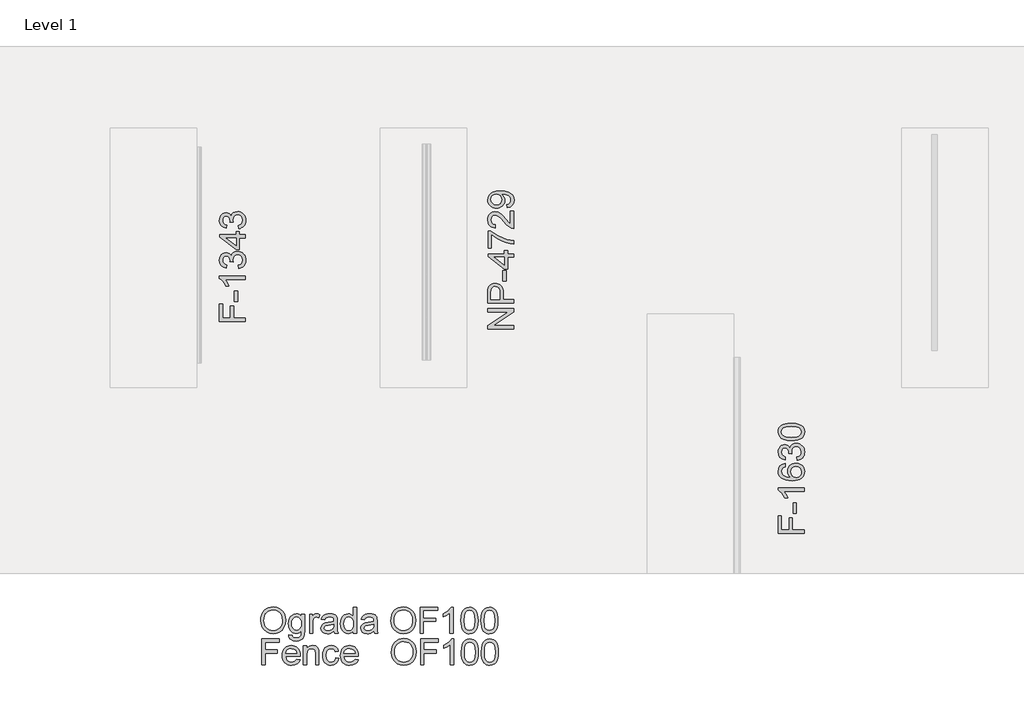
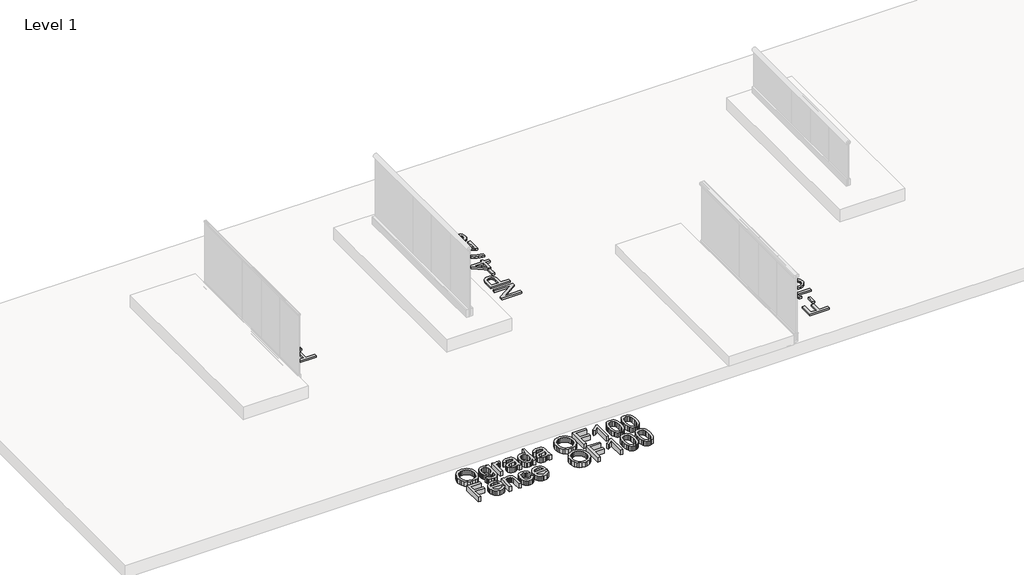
# One storey, part 8 of 9: 4 proxies.
"""IFC4 building model written with IfcOpenShell, lengths in millimetres."""

from ifc_helpers import new_model, si_unit, origin, origin_with_axes, place, context, project, spatial, polyline, outline, extrude, element, save

model = new_model("IFC4")

# Units and contexts
model_context = context("Model", 3, world=origin())
ifc_project = project(units=[si_unit("LENGTHUNIT", "METRE", prefix="MILLI")], contexts=[model_context])

# Site, building, storey
site = spatial("IfcSite", under=ifc_project)
building = spatial("IfcBuilding", under=site)
storey = spatial("IfcBuildingStorey", under=building, Name="Level 1", Elevation=0.0)

# Proxies
placement = place(None, origin())
element("IfcBuildingElementProxy", 1, Name="600mm Arial", ObjectType="600mm Arial", at=placement, inside=storey, context=model_context, shape_type="SweptSolid", body=[
    extrude(outline(polyline([(21006.9108458, -4168.9265323), (21009.4216404, -4133.5776711), (21016.9540243, -4102.2847089), (21029.5079974, -4075.0476456), (21047.0835597, -4051.8664814), (21068.627649, -4033.3574185), (21093.0872032, -4020.1366593), (21120.4622221, -4012.2042038), (21150.7527059, -4009.560052), (21190.2816263, -4014.5264589), (21225.7270565, -4029.4256797), (21255.1576161, -4053.2092507), (21276.6419247, -4084.8287082), (21289.7753119, -4122.7573419), (21294.1531076, -4165.4684415), (21289.5453856, -4208.7497583), (21275.7222197, -4247.2118209), (21253.4469649, -4278.8864606), (21223.4829764, -4301.8055089), (21188.3410488, -4315.7114484), (21150.5319767, -4320.3467615), (21110.396051, -4315.2240047), (21074.7482857, -4299.8557344), (21045.3913025, -4275.630705), (21024.1277232, -4243.9376711), (21011.2150651, -4207.4713683), (21006.9108458, -4168.9265323)]), holes=[polyline([(21044.5819621, -4169.2944143), (21046.4650581, -4194.2690032), (21052.114346, -4216.438492), (21061.5298258, -4235.8028805), (21074.7114975, -4252.3621688), (21090.7350577, -4265.6243147), (21108.6762027, -4275.0972761), (21128.5349327, -4280.7810529), (21150.3112475, -4282.6756452), (21172.4600429, -4280.7626588), (21192.5532976, -4275.0236997), (21210.5910117, -4265.4587678), (21226.5731851, -4252.0678632), (21239.6582878, -4235.159087), (21249.0047898, -4215.0405404), (21254.6126909, -4191.7122234), (21256.4819913, -4165.1741359), (21253.281418, -4131.8256331), (21243.6796979, -4103.0020787), (21227.9251515, -4079.4300399), (21206.266099, -4061.8360835), (21180.1372803, -4050.8823971), (21150.9734351, -4047.2311683), (21129.9535776, -4048.9901041), (21110.4512333, -4054.2669114), (21092.4664023, -4063.0615904), (21075.9990845, -4075.3741409), (21062.2540935, -4091.7977727), (21052.4362427, -4112.9256956), (21046.5455323, -4138.7579094), (21044.5819621, -4169.2944143)])]), origin_with_axes(), (0.0, 0.0, 1.0), 75.0),
    extrude(outline(polyline([(21331.8242239, -4334.4734301), (21369.4953403, -4339.1823196), (21373.6524068, -4350.9545435), (21381.7090225, -4359.0479474), (21397.5463424, -4365.3387295), (21418.2764928, -4367.4356569), (21440.3862007, -4365.062818), (21456.8305259, -4357.9443014), (21468.2348678, -4346.5399595), (21475.2246257, -4331.3096449), (21477.7997996, -4287.3845347), (21465.2642206, -4299.7453698), (21451.2755078, -4308.5745376), (21435.833661, -4313.8720384), (21418.9386804, -4315.637872), (21398.2844056, -4313.5823313), (21380.0995388, -4307.4157094), (21364.3840798, -4297.1380061), (21351.1380287, -4282.7492216), (21340.6280999, -4265.486359), (21333.121008, -4246.5864215), (21328.6167528, -4226.0494091), (21327.1153344, -4203.8753218), (21329.81007, -4173.4606779), (21337.8942769, -4145.4924492), (21351.0828464, -4121.7916516), (21369.0906701, -4104.1793011), (21391.3015455, -4093.2532059), (21417.0992704, -4089.6111741), (21434.7162195, -4091.6713133), (21450.7052907, -4097.8517308), (21465.0664841, -4108.1524267), (21477.7997996, -4122.5734009), (21477.7997996, -4094.3200637), (21515.4709159, -4094.3200637), (21515.4709159, -4285.397972), (21512.895742, -4329.5162202), (21505.1702201, -4358.5697008), (21491.8620889, -4377.8375203), (21472.5390871, -4392.5987853), (21447.624279, -4401.9797762), (21417.5407288, -4405.1067732), (21382.4907717, -4400.7013863), (21354.890425, -4387.4852256), (21344.4954594, -4377.5639081), (21337.186104, -4365.421503), (21332.9623589, -4351.0580103), (21331.8242239, -4334.4734301)]), holes=[polyline([(21364.7864507, -4201.3001479), (21368.8055615, -4235.8534643), (21380.8628939, -4259.6094441), (21398.9902792, -4273.3774278), (21421.2195488, -4277.9667556), (21443.2832714, -4273.4050189), (21461.5026272, -4259.7198087), (21473.7255065, -4236.2673315), (21477.7997996, -4202.4037938), (21473.6059449, -4169.7450697), (21461.0243807, -4146.2282132), (21442.5383104, -4132.0187711), (21420.6309376, -4127.2822904), (21399.1190379, -4131.9451947), (21381.0836231, -4145.9339076), (21368.8607438, -4169.1012762), (21364.7864507, -4201.3001479)])]), origin_with_axes(), (0.0, 0.0, 1.0), 75.0),
    extrude(outline(polyline([(21571.9775904, -4315.637872), (21571.9775904, -4094.3200637), (21604.9398172, -4094.3200637), (21604.9398172, -4127.0615612), (21617.1167112, -4108.0788503), (21628.3371121, -4096.8952376), (21639.5943011, -4091.43219), (21651.8815597, -4089.6111741), (21670.6435415, -4092.5174419), (21689.6998289, -4101.2362452), (21677.1182646, -4135.0078123), (21663.8745128, -4129.2136709), (21650.630761, -4127.2822904), (21639.382769, -4129.1400945), (21629.3303934, -4134.7135067), (21621.2093984, -4143.5794628), (21615.7555478, -4155.3148985), (21611.175417, -4176.3577486), (21609.6487067, -4199.3135851), (21609.6487067, -4315.637872), (21571.9775904, -4315.637872)])), origin_with_axes(), (0.0, 0.0, 1.0), 75.0),
    extrude(outline(polyline([(21854.5109627, -4287.3845347), (21836.5123361, -4302.8171844), (21817.9802806, -4312.9155452), (21798.4917319, -4318.4889574), (21777.6236257, -4320.3467615), (21746.142124, -4315.8769953), (21722.919573, -4302.4676965), (21708.5997664, -4282.1054281), (21703.8264975, -4256.7767527), (21705.6291192, -4241.160162), (21711.0369846, -4226.9783111), (21719.3787088, -4214.8382053), (21729.9829073, -4205.3468498), (21756.3600464, -4192.9860148), (21788.9543912, -4187.320632), (21827.471636, -4181.3609437), (21854.2902335, -4174.3711858), (21854.5109627, -4165.9834763), (21851.9173946, -4149.1712691), (21844.1366904, -4138.1715975), (21826.7358721, -4130.0046172), (21802.4924486, -4127.2822904), (21780.0516469, -4129.0941093), (21764.3798739, -4134.5295657), (21753.6929019, -4144.5819412), (21746.2065033, -4160.2445172), (21708.535387, -4155.5356277), (21715.0744895, -4134.9342359), (21724.8325594, -4118.7474281), (21738.7201047, -4106.368199), (21757.6476334, -4097.1895432), (21780.7966079, -4091.5057664), (21807.3484909, -4089.6111741), (21832.815122, -4091.2850372), (21853.0026465, -4096.3066264), (21868.2237641, -4103.8574044), (21878.7911744, -4113.1188336), (21885.7993264, -4124.5691607), (21890.342669, -4138.6866323), (21892.182079, -4171.648859), (21892.182079, -4218.5170252), (21894.0950654, -4283.9632322), (21901.5998581, -4315.637872), (21863.9287418, -4315.637872), (21854.5109627, -4287.3845347)]), holes=[polyline([(21854.5109627, -4212.0423021), (21793.7368571, -4223.5937968), (21761.3264533, -4229.7006379), (21746.6479617, -4239.6334518), (21741.4976138, -4254.1280024), (21744.302714, -4265.3300091), (21752.7180146, -4274.5086649), (21766.5595747, -4280.6339001), (21785.6434532, -4282.6756452), (21805.8769629, -4280.422368), (21823.7560279, -4273.6625363), (21838.2505785, -4263.7021313), (21848.3305452, -4251.847134), (21852.8003114, -4239.6334518), (21854.2902335, -4222.71088), (21854.5109627, -4212.0423021)])]), origin_with_axes(), (0.0, 0.0, 1.0), 75.0),
    extrude(outline(polyline([(22080.5376605, -4315.637872), (22080.5376605, -4280.1004712), (22069.2666759, -4297.7082232), (22055.6136554, -4310.2851889), (22039.5785989, -4317.8313684), (22021.1615065, -4320.3467615), (21996.8077184, -4316.7047297), (21974.5140695, -4305.7786345), (21955.6417232, -4288.3318309), (21941.5518428, -4265.127674), (21932.7778572, -4237.104263), (21929.8531953, -4205.199697), (21932.5479309, -4173.6906041), (21940.6321378, -4145.2349318), (21954.0966188, -4121.4513608), (21972.9321769, -4103.9585719), (21995.7132695, -4093.1980236), (22021.0143537, -4089.6111741), (22039.4452417, -4092.177151), (22055.7424141, -4099.8750818), (22069.556383, -4111.6748968), (22080.5376605, -4126.5465264), (22080.5376605, -4014.2689415), (22118.2087768, -4014.2689415), (22118.2087768, -4315.637872), (22080.5376605, -4315.637872)]), holes=[polyline([(21967.5243116, -4205.0525442), (21971.7733487, -4239.127614), (21984.5204598, -4263.3618404), (22003.0433182, -4277.847194), (22024.6195973, -4282.6756452), (22046.1866792, -4278.0679232), (22064.2404881, -4264.2447572), (22076.4633674, -4240.9486299), (22080.5376605, -4207.9220238), (22076.389791, -4171.8144059), (22063.9461825, -4146.7800362), (22045.4325211, -4132.1567269), (22023.0744929, -4127.2822904), (22001.2774847, -4131.9635888), (21983.4168138, -4146.007484), (21971.4974372, -4170.1313458), (21967.5243116, -4205.0525442)])]), origin_with_axes(), (0.0, 0.0, 1.0), 75.0),
    extrude(outline(polyline([(22315.9821374, -4287.3845347), (22297.9835108, -4302.8171844), (22279.4514553, -4312.9155452), (22259.9629066, -4318.4889574), (22239.0948004, -4320.3467615), (22207.6132987, -4315.8769953), (22184.3907478, -4302.4676965), (22170.0709411, -4282.1054281), (22165.2976722, -4256.7767527), (22167.100294, -4241.160162), (22172.5081593, -4226.9783111), (22180.8498836, -4214.8382053), (22191.4540821, -4205.3468498), (22217.8312211, -4192.9860148), (22250.4255659, -4187.320632), (22288.9428108, -4181.3609437), (22315.7614082, -4174.3711858), (22315.9821374, -4165.9834763), (22313.3885694, -4149.1712691), (22305.6078652, -4138.1715975), (22288.2070468, -4130.0046172), (22263.9636233, -4127.2822904), (22241.5228216, -4129.0941093), (22225.8510486, -4134.5295657), (22215.1640767, -4144.5819412), (22207.6776781, -4160.2445172), (22170.0065618, -4155.5356277), (22176.5456642, -4134.9342359), (22186.3037341, -4118.7474281), (22200.1912795, -4106.368199), (22219.1188081, -4097.1895432), (22242.2677827, -4091.5057664), (22268.8196657, -4089.6111741), (22294.2862968, -4091.2850372), (22314.4738213, -4096.3066264), (22329.6949388, -4103.8574044), (22340.2623491, -4113.1188336), (22347.2705011, -4124.5691607), (22351.8138438, -4138.6866323), (22353.6532537, -4171.648859), (22353.6532537, -4218.5170252), (22355.5662401, -4283.9632322), (22363.0710328, -4315.637872), (22325.3999165, -4315.637872), (22315.9821374, -4287.3845347)]), holes=[polyline([(22315.9821374, -4212.0423021), (22255.2080318, -4223.5937968), (22222.7976281, -4229.7006379), (22208.1191365, -4239.6334518), (22202.9687885, -4254.1280024), (22205.7738887, -4265.3300091), (22214.1891894, -4274.5086649), (22228.0307494, -4280.6339001), (22247.1146279, -4282.6756452), (22267.3481377, -4280.422368), (22285.2272026, -4273.6625363), (22299.7217533, -4263.7021313), (22309.8017199, -4251.847134), (22314.2714862, -4239.6334518), (22315.7614082, -4222.71088), (22315.9821374, -4212.0423021)])]), origin_with_axes(), (0.0, 0.0, 1.0), 75.0),
    extrude(outline(polyline([(22513.755498, -4168.9265323), (22516.2662927, -4133.5776711), (22523.7986765, -4102.2847089), (22536.3526496, -4075.0476456), (22553.9282119, -4051.8664814), (22575.4723013, -4033.3574185), (22599.9318554, -4020.1366593), (22627.3068744, -4012.2042038), (22657.5973582, -4009.560052), (22697.1262785, -4014.5264589), (22732.5717088, -4029.4256797), (22762.0022684, -4053.2092507), (22783.4865769, -4084.8287082), (22796.6199641, -4122.7573419), (22800.9977599, -4165.4684415), (22796.3900379, -4208.7497583), (22782.5668719, -4247.2118209), (22760.2916171, -4278.8864606), (22730.3276286, -4301.8055089), (22695.185701, -4315.7114484), (22657.376629, -4320.3467615), (22617.2407033, -4315.2240047), (22581.592938, -4299.8557344), (22552.2359547, -4275.630705), (22530.9723754, -4243.9376711), (22518.0597174, -4207.4713683), (22513.755498, -4168.9265323)]), holes=[polyline([(22551.4266144, -4169.2944143), (22553.3097103, -4194.2690032), (22558.9589982, -4216.438492), (22568.374478, -4235.8028805), (22581.5561498, -4252.3621688), (22597.5797099, -4265.6243147), (22615.520855, -4275.0972761), (22635.3795849, -4280.7810529), (22657.1558998, -4282.6756452), (22679.3046951, -4280.7626588), (22699.3979499, -4275.0236997), (22717.4356639, -4265.4587678), (22733.4178374, -4252.0678632), (22746.5029401, -4235.159087), (22755.849442, -4215.0405404), (22761.4573432, -4191.7122234), (22763.3266436, -4165.1741359), (22760.1260702, -4131.8256331), (22750.5243501, -4103.0020787), (22734.7698037, -4079.4300399), (22713.1107512, -4061.8360835), (22686.9819325, -4050.8823971), (22657.8180874, -4047.2311683), (22636.7982299, -4048.9901041), (22617.2958856, -4054.2669114), (22599.3110546, -4063.0615904), (22582.8437367, -4075.3741409), (22569.0987457, -4091.7977727), (22559.280895, -4112.9256956), (22553.3901845, -4138.7579094), (22551.4266144, -4169.2944143)])]), origin_with_axes(), (0.0, 0.0, 1.0), 75.0),
    extrude(outline(polyline([(22852.7955448, -4315.637872), (22852.7955448, -4014.2689415), (23055.2777949, -4014.2689415), (23055.2777949, -4051.9400578), (22890.4666611, -4051.9400578), (22890.4666611, -4141.408959), (23031.7333473, -4141.408959), (23031.7333473, -4179.0800753), (22890.4666611, -4179.0800753), (22890.4666611, -4315.637872), (22852.7955448, -4315.637872)])), origin_with_axes(), (0.0, 0.0, 1.0), 75.0),
    extrude(outline(polyline([(23234.2155974, -4315.637872), (23196.5444811, -4315.637872), (23196.5444811, -4080.7820062), (23160.8599276, -4106.2026521), (23121.2022485, -4125.2221513), (23121.2022485, -4089.6111741), (23150.7891579, -4073.5163368), (23176.421336, -4054.368079), (23196.6272545, -4034.0058105), (23209.9353857, -4014.2689415), (23234.2155974, -4014.2689415), (23234.2155974, -4315.637872)])), origin_with_axes(), (0.0, 0.0, 1.0), 75.0),
    extrude(outline(polyline([(23323.6844986, -4167.3814279), (23326.4528106, -4119.1429013), (23334.7577467, -4080.6716416), (23348.5165333, -4051.3790378), (23367.6463971, -4030.6764785), (23392.2852937, -4018.3708258), (23422.5711789, -4014.2689415), (23445.7845328, -4016.6969627), (23466.5698656, -4023.9810262), (23483.9522898, -4035.8360235), (23496.9569184, -4051.976846), (23506.7793676, -4072.265538), (23514.6152541, -4096.5641438), (23519.747208, -4127.4202462), (23521.4578592, -4167.3814279), (23518.7171384, -4215.344043), (23510.4949758, -4253.7233322), (23496.8189626, -4283.0435272), (23477.71669, -4303.8288599), (23453.0226111, -4316.2172861), (23422.5711789, -4320.3467615), (23401.8226344, -4318.5533368), (23383.4285346, -4313.1730626), (23367.3888797, -4304.205939), (23353.7036694, -4291.6519659), (23340.5702822, -4268.9582453), (23331.1892913, -4240.6819154), (23325.5606968, -4206.8229763), (23323.6844986, -4167.3814279)]), holes=[polyline([(23361.3556149, -4167.3078515), (23365.7701989, -4226.5644439), (23371.2884288, -4246.8324425), (23379.0139507, -4260.8602429), (23398.7324256, -4277.2217946), (23422.5711789, -4282.6756452), (23446.4099322, -4277.2034005), (23466.1284072, -4260.7866665), (23473.8539291, -4246.7358735), (23479.372159, -4226.4724734), (23483.7867429, -4167.3078515), (23479.5193118, -4109.3848314), (23474.1850229, -4089.1835113), (23466.7170184, -4074.8223179), (23447.0353316, -4057.6606228), (23422.1297205, -4051.9400578), (23398.5484846, -4056.9800411), (23379.6025619, -4072.0999911), (23371.6195226, -4087.7349759), (23365.9173517, -4108.8146143), (23361.3556149, -4167.3078515)])]), origin_with_axes(), (0.0, 0.0, 1.0), 75.0),
    extrude(outline(polyline([(23554.420086, -4167.3814279), (23557.188398, -4119.1429013), (23565.4933341, -4080.6716416), (23579.2521207, -4051.3790378), (23598.3819844, -4030.6764785), (23623.0208811, -4018.3708258), (23653.3067663, -4014.2689415), (23676.5201202, -4016.6969627), (23697.3054529, -4023.9810262), (23714.6878772, -4035.8360235), (23727.6925057, -4051.976846), (23737.514955, -4072.265538), (23745.3508415, -4096.5641438), (23750.4827953, -4127.4202462), (23752.1934466, -4167.3814279), (23749.4527257, -4215.344043), (23741.2305632, -4253.7233322), (23727.55455, -4283.0435272), (23708.4522774, -4303.8288599), (23683.7581985, -4316.2172861), (23653.3067663, -4320.3467615), (23632.5582218, -4318.5533368), (23614.164122, -4313.1730626), (23598.124467, -4304.205939), (23584.4392568, -4291.6519659), (23571.3058696, -4268.9582453), (23561.9248787, -4240.6819154), (23556.2962842, -4206.8229763), (23554.420086, -4167.3814279)]), holes=[polyline([(23592.0912023, -4167.3078515), (23596.5057863, -4226.5644439), (23602.0240162, -4246.8324425), (23609.7495381, -4260.8602429), (23629.468013, -4277.2217946), (23653.3067663, -4282.6756452), (23677.1455196, -4277.2034005), (23696.8639945, -4260.7866665), (23704.5895164, -4246.7358735), (23710.1077464, -4226.4724734), (23714.5223303, -4167.3078515), (23710.2548992, -4109.3848314), (23704.9206102, -4089.1835113), (23697.4526057, -4074.8223179), (23677.770919, -4057.6606228), (23652.8653079, -4051.9400578), (23629.284072, -4056.9800411), (23610.3381493, -4072.0999911), (23602.35511, -4087.7349759), (23596.6529391, -4108.8146143), (23592.0912023, -4167.3078515)])]), origin_with_axes(), (0.0, 0.0, 1.0), 75.0),
    extrude(outline(polyline([(21021.0375144, -4681.5623255), (21021.0375144, -4380.193395), (21223.5197646, -4380.193395), (21223.5197646, -4417.8645113), (21058.7086307, -4417.8645113), (21058.7086307, -4507.3334126), (21199.9753169, -4507.3334126), (21199.9753169, -4545.0045289), (21058.7086307, -4545.0045289), (21058.7086307, -4681.5623255), (21021.0375144, -4681.5623255)])), origin_with_axes(), (0.0, 0.0, 1.0), 75.0),
    extrude(outline(polyline([(21425.5605563, -4615.637872), (21462.4959086, -4620.3467615), (21449.1877775, -4648.1770344), (21427.9517893, -4668.9807613), (21399.2661907, -4681.9486016), (21363.6092283, -4686.271215), (21340.2349261, -4684.4065132), (21319.4082066, -4678.8124076), (21301.12907, -4669.4888983), (21285.3975162, -4656.4359852), (21272.746974, -4640.0169519), (21263.7108725, -4620.5950818), (21258.2892116, -4598.170375), (21256.4819913, -4572.7428313), (21258.3076057, -4546.4530642), (21263.7844489, -4523.2810971), (21272.9125209, -4503.2269298), (21285.6918217, -4486.2905625), (21301.3819888, -4472.8352785), (21319.2426597, -4463.2243614), (21339.2738343, -4457.4578111), (21361.4755128, -4455.5356277), (21382.9621205, -4457.4532126), (21402.3931877, -4463.2059673), (21419.7687142, -4472.7938918), (21435.0887, -4486.2169861), (21447.5943886, -4503.1165652), (21456.5270233, -4523.1339443), (21461.8866041, -4546.2691232), (21463.673131, -4572.5221021), (21463.4524018, -4582.6756452), (21294.1531076, -4582.6756452), (21300.673816, -4610.8738001), (21315.8213572, -4631.6039505), (21337.6827447, -4644.3510617), (21364.3449923, -4648.6000987), (21384.3945611, -4646.63193), (21401.2803446, -4640.727424), (21415.0023431, -4630.5186987), (21425.5605563, -4615.637872)]), holes=[polyline([(21294.1531076, -4545.0045289), (21426.0020147, -4545.0045289), (21420.9068491, -4525.1021129), (21410.9188529, -4510.8650797), (21388.9562978, -4497.6213279), (21361.32836, -4493.206744), (21335.9353052, -4496.7292141), (21314.9384404, -4507.2966244), (21300.3427222, -4523.7685407), (21294.1531076, -4545.0045289)])]), origin_with_axes(), (0.0, 0.0, 1.0), 75.0),
    extrude(outline(polyline([(21501.3442473, -4681.5623255), (21501.3442473, -4460.2445172), (21539.0153636, -4460.2445172), (21539.0153636, -4491.1466048), (21552.1027656, -4475.5668023), (21567.8205239, -4464.4383719), (21586.1686384, -4457.7613137), (21607.1471091, -4455.5356277), (21625.7159528, -4457.3290524), (21642.7212981, -4462.7093266), (21656.903149, -4471.0050656), (21667.0015098, -4481.5448847), (21678.295487, -4509.2463989), (21680.2820498, -4545.6667165), (21680.2820498, -4681.5623255), (21642.6109335, -4681.5623255), (21642.6109335, -4550.743488), (21638.2699259, -4517.4133792), (21632.2642524, -4507.4897624), (21622.9292467, -4499.7918317), (21610.9638848, -4494.8530159), (21597.0671425, -4493.206744), (21575.0034198, -4496.903958), (21556.1954528, -4507.9956002), (21548.6791638, -4517.0500958), (21543.3103859, -4529.4247264), (21539.0153636, -4564.1343926), (21539.0153636, -4681.5623255), (21501.3442473, -4681.5623255)])), origin_with_axes(), (0.0, 0.0, 1.0), 75.0),
    extrude(outline(polyline([(21873.3465208, -4601.5112033), (21911.0176372, -4606.2200929), (21900.5146062, -4639.7249456), (21880.7777371, -4665.0444239), (21853.6648341, -4680.9645172), (21821.0337011, -4686.271215), (21799.9057783, -4684.4203087), (21780.9621548, -4678.8675899), (21764.2028307, -4669.6130584), (21749.6278059, -4656.6567144), (21737.8302901, -4640.2422796), (21729.4034932, -4620.6134759), (21724.347415, -4597.7703033), (21722.6620556, -4571.7127617), (21725.5407322, -4538.1895149), (21734.1767621, -4509.1360344), (21748.7081009, -4485.6743601), (21769.2727044, -4468.9265323), (21793.8748128, -4458.8833538), (21820.5186663, -4455.5356277), (21852.349656, -4460.1341526), (21877.797893, -4473.9297274), (21896.054037, -4496.1865881), (21906.3087476, -4526.1689707), (21868.6376313, -4530.8778603), (21861.8042232, -4514.4427321), (21851.1632365, -4502.6613112), (21837.3032824, -4495.5703858), (21820.8129719, -4493.206744), (21796.4683809, -4497.8604512), (21777.1453791, -4511.8215729), (21764.5362237, -4535.8442672), (21760.3331719, -4570.6826921), (21764.4442532, -4605.9901666), (21776.7774971, -4630.0956344), (21795.751011, -4643.9739826), (21819.7829023, -4648.6000987), (21839.2898451, -4645.7122251), (21855.2835149, -4637.0486041), (21866.917783, -4622.3885066), (21873.3465208, -4601.5112033)])), origin_with_axes(), (0.0, 0.0, 1.0), 75.0),
    extrude(outline(polyline([(22098.9317603, -4615.637872), (22135.8671126, -4620.3467615), (22122.5589814, -4648.1770344), (22101.3229933, -4668.9807613), (22072.6373947, -4681.9486016), (22036.9804323, -4686.271215), (22013.60613, -4684.4065132), (21992.7794106, -4678.8124076), (21974.5002739, -4669.4888983), (21958.7687201, -4656.4359852), (21946.118178, -4640.0169519), (21937.0820765, -4620.5950818), (21931.6604156, -4598.170375), (21929.8531953, -4572.7428313), (21931.6788097, -4546.4530642), (21937.1556529, -4523.2810971), (21946.2837249, -4503.2269298), (21959.0630257, -4486.2905625), (21974.7531928, -4472.8352785), (21992.6138637, -4463.2243614), (22012.6450383, -4457.4578111), (22034.8467167, -4455.5356277), (22056.3333245, -4457.4532126), (22075.7643916, -4463.2059673), (22093.1399181, -4472.7938918), (22108.459904, -4486.2169861), (22120.9655925, -4503.1165652), (22129.8982272, -4523.1339443), (22135.257808, -4546.2691232), (22137.044335, -4572.5221021), (22136.8236058, -4582.6756452), (21967.5243116, -4582.6756452), (21974.04502, -4610.8738001), (21989.1925611, -4631.6039505), (22011.0539487, -4644.3510617), (22037.7161963, -4648.6000987), (22057.765765, -4646.63193), (22074.6515486, -4640.727424), (22088.373547, -4630.5186987), (22098.9317603, -4615.637872)]), holes=[polyline([(21967.5243116, -4545.0045289), (22099.3732187, -4545.0045289), (22094.278053, -4525.1021129), (22084.2900569, -4510.8650797), (22062.3275018, -4497.6213279), (22034.6995639, -4493.206744), (22009.3065092, -4496.7292141), (21988.3096443, -4507.2966244), (21973.7139262, -4523.7685407), (21967.5243116, -4545.0045289)])]), origin_with_axes(), (0.0, 0.0, 1.0), 75.0),
    extrude(outline(polyline([(22518.4643876, -4534.8509858), (22520.9751822, -4499.5021246), (22528.5075661, -4468.2091624), (22541.0615391, -4440.9720992), (22558.6371015, -4417.7909349), (22580.1811908, -4399.2818721), (22604.640745, -4386.0611129), (22632.0157639, -4378.1286573), (22662.3062477, -4375.4845055), (22701.8351681, -4380.4509124), (22737.2805983, -4395.3501332), (22766.7111579, -4419.1337042), (22788.1954665, -4450.7531617), (22801.3288537, -4488.6817954), (22805.7066494, -4531.3928951), (22801.0989274, -4574.6742118), (22787.2757615, -4613.1362744), (22765.0005067, -4644.8109142), (22735.0365181, -4667.7299625), (22699.8945906, -4681.6359019), (22662.0855185, -4686.271215), (22621.9495928, -4681.1484582), (22586.3018275, -4665.7801879), (22556.9448443, -4641.5551585), (22535.681265, -4609.8621246), (22522.7686069, -4573.3958219), (22518.4643876, -4534.8509858)]), holes=[polyline([(22556.1355039, -4535.2188678), (22558.0185999, -4560.1934568), (22563.6678877, -4582.3629455), (22573.0833676, -4601.727334), (22586.2650393, -4618.2866223), (22602.2885995, -4631.5487682), (22620.2297445, -4641.0217296), (22640.0884745, -4646.7055064), (22661.8647893, -4648.6000987), (22684.0135847, -4646.6871123), (22704.1068394, -4640.9481532), (22722.1445535, -4631.3832213), (22738.1267269, -4617.9923167), (22751.2118296, -4601.0835405), (22760.5583316, -4580.9649939), (22766.1662327, -4557.6366769), (22768.0355331, -4531.0985895), (22764.8349598, -4497.7500866), (22755.2332397, -4468.9265323), (22739.4786932, -4445.3544934), (22717.8196408, -4427.760537), (22691.6908221, -4416.8068506), (22662.5269769, -4413.1556218), (22641.5071194, -4414.9145576), (22622.0047751, -4420.191365), (22604.0199441, -4428.9860439), (22587.5526263, -4441.2985944), (22573.8076352, -4457.7222263), (22563.9897845, -4478.8501491), (22558.099074, -4504.6823629), (22556.1355039, -4535.2188678)])]), origin_with_axes(), (0.0, 0.0, 1.0), 75.0),
    extrude(outline(polyline([(22857.5044343, -4681.5623255), (22857.5044343, -4380.193395), (23059.9866845, -4380.193395), (23059.9866845, -4417.8645113), (22895.1755506, -4417.8645113), (22895.1755506, -4507.3334126), (23036.4422368, -4507.3334126), (23036.4422368, -4545.0045289), (22895.1755506, -4545.0045289), (22895.1755506, -4681.5623255), (22857.5044343, -4681.5623255)])), origin_with_axes(), (0.0, 0.0, 1.0), 75.0),
    extrude(outline(polyline([(23238.9244869, -4681.5623255), (23201.2533706, -4681.5623255), (23201.2533706, -4446.7064598), (23165.5688171, -4472.1271056), (23125.911138, -4491.1466048), (23125.911138, -4455.5356277), (23155.4980475, -4439.4407904), (23181.1302255, -4420.2925325), (23201.3361441, -4399.9302641), (23214.6442753, -4380.193395), (23238.9244869, -4380.193395), (23238.9244869, -4681.5623255)])), origin_with_axes(), (0.0, 0.0, 1.0), 75.0),
    extrude(outline(polyline([(23328.3933882, -4533.3058814), (23331.1617002, -4485.0673548), (23339.4666362, -4446.5960952), (23353.2254228, -4417.3034913), (23372.3552866, -4396.600932), (23396.9941832, -4384.2952793), (23427.2800685, -4380.193395), (23450.4934224, -4382.6214162), (23471.2787551, -4389.9054797), (23488.6611794, -4401.760477), (23501.6658079, -4417.9012995), (23511.4882572, -4438.1899916), (23519.3241437, -4462.4885974), (23524.4560975, -4493.3446997), (23526.1667488, -4533.3058814), (23523.4260279, -4581.2684966), (23515.2038653, -4619.6477857), (23501.5278521, -4648.9679807), (23482.4255795, -4669.7533134), (23457.7315006, -4682.1417396), (23427.2800685, -4686.271215), (23406.5315239, -4684.4777903), (23388.1374242, -4679.0975161), (23372.0977692, -4670.1303925), (23358.412559, -4657.5764194), (23345.2791717, -4634.8826988), (23335.8981809, -4606.606369), (23330.2695863, -4572.7474298), (23328.3933882, -4533.3058814)]), holes=[polyline([(23366.0645045, -4533.232305), (23370.4790884, -4592.4888974), (23375.9973183, -4612.7568961), (23383.7228402, -4626.7846964), (23403.4413152, -4643.1462481), (23427.2800685, -4648.6000987), (23451.1188218, -4643.127854), (23470.8372967, -4626.71112), (23478.5628186, -4612.6603271), (23484.0810485, -4592.3969269), (23488.4956325, -4533.232305), (23484.2282013, -4475.3092849), (23478.8939124, -4455.1079648), (23471.4259079, -4440.7467714), (23451.7442212, -4423.5850764), (23426.8386101, -4417.8645113), (23403.2573742, -4422.9044947), (23384.3114514, -4438.0244447), (23376.3284121, -4453.6594295), (23370.6262412, -4474.7390678), (23366.0645045, -4533.232305)])]), origin_with_axes(), (0.0, 0.0, 1.0), 75.0),
    extrude(outline(polyline([(23559.1289755, -4533.3058814), (23561.8972876, -4485.0673548), (23570.2022236, -4446.5960952), (23583.9610102, -4417.3034913), (23603.090874, -4396.600932), (23627.7297706, -4384.2952793), (23658.0156558, -4380.193395), (23681.2290097, -4382.6214162), (23702.0143425, -4389.9054797), (23719.3967667, -4401.760477), (23732.4013953, -4417.9012995), (23742.2238445, -4438.1899916), (23750.059731, -4462.4885974), (23755.1916849, -4493.3446997), (23756.9023361, -4533.3058814), (23754.1616153, -4581.2684966), (23745.9394527, -4619.6477857), (23732.2634395, -4648.9679807), (23713.1611669, -4669.7533134), (23688.467088, -4682.1417396), (23658.0156558, -4686.271215), (23637.2671113, -4684.4777903), (23618.8730116, -4679.0975161), (23602.8333566, -4670.1303925), (23589.1481463, -4657.5764194), (23576.0147591, -4634.8826988), (23566.6337682, -4606.606369), (23561.0051737, -4572.7474298), (23559.1289755, -4533.3058814)]), holes=[polyline([(23596.8000918, -4533.232305), (23601.2146758, -4592.4888974), (23606.7329057, -4612.7568961), (23614.4584276, -4626.7846964), (23634.1769026, -4643.1462481), (23658.0156558, -4648.6000987), (23681.8544091, -4643.127854), (23701.5728841, -4626.71112), (23709.298406, -4612.6603271), (23714.8166359, -4592.3969269), (23719.2312198, -4533.232305), (23714.9637887, -4475.3092849), (23709.6294998, -4455.1079648), (23702.1614953, -4440.7467714), (23682.4798085, -4423.5850764), (23657.5741975, -4417.8645113), (23633.9929616, -4422.9044947), (23615.0470388, -4438.0244447), (23607.0639995, -4453.6594295), (23601.3618286, -4474.7390678), (23596.8000918, -4533.232305)])]), origin_with_axes(), (0.0, 0.0, 1.0), 75.0),
])
element("IfcBuildingElementProxy", 2, Name="600mm Arial", ObjectType="600mm Arial", at=placement, inside=storey, context=model_context, shape_type="SweptSolid", body=[
    extrude(outline(polyline([(20830.3085019, -703.3093416), (20528.9395714, -703.3093416), (20528.9395714, -500.8270915), (20566.6106877, -500.8270915), (20566.6106877, -665.6382253), (20656.079589, -665.6382253), (20656.079589, -524.3715392), (20693.7507053, -524.3715392), (20693.7507053, -665.6382253), (20830.3085019, -665.6382253), (20830.3085019, -703.3093416)])), origin_with_axes(), (0.0, 0.0, 1.0), 30.0),
    extrude(outline(polyline([(20740.8396007, -472.5737543), (20703.1684843, -472.5737543), (20703.1684843, -354.8515158), (20740.8396007, -354.8515158), (20740.8396007, -472.5737543)])), origin_with_axes(), (0.0, 0.0, 1.0), 30.0),
    extrude(outline(polyline([(20830.3085019, -180.6226029), (20830.3085019, -218.2937192), (20595.4526362, -218.2937192), (20620.873282, -253.9782727), (20639.8927812, -293.6359518), (20604.281804, -293.6359518), (20588.1869668, -264.0490423), (20569.0387089, -238.4168643), (20548.6764405, -218.2109458), (20528.9395714, -204.9028146), (20528.9395714, -180.6226029), (20830.3085019, -180.6226029)])), origin_with_axes(), (0.0, 0.0, 1.0), 30.0),
    extrude(outline(polyline([(20750.2573797, -91.1537017), (20745.5484902, -53.4825854), (20769.2216966, -45.0488906), (20785.2061693, -32.6972526), (20794.3112487, -15.8206661), (20797.3462751, 6.1878743), (20793.1708145, 32.0131903), (20780.6444325, 51.9523945), (20761.9560272, 64.6995056), (20739.2944963, 68.9485426), (20717.7825966, 64.7362938), (20700.335793, 52.0995473), (20688.7751013, 32.9696835), (20684.9215374, 9.278083), (20689.0418157, -17.1358442), (20651.3706994, -12.9419895), (20651.8121578, -6.9087248), (20649.1082252, 15.6608356), (20640.9964272, 35.8391631), (20627.2744287, 50.0761963), (20607.7398948, 54.821874), (20591.4703136, 51.3821774), (20578.272547, 41.0630874), (20569.5261526, 25.317738), (20566.6106877, 5.5992631), (20569.5537437, -14.1560001), (20578.3829116, -30.3060197), (20593.0981914, -42.0966376), (20613.6995831, -48.7736958), (20608.9906936, -86.4448121), (20575.1639441, -75.35317), (20549.9088452, -55.6163009), (20534.1818899, -28.6137625), (20528.9395714, 4.2748879), (20531.5239424, 27.9572913), (20539.2770555, 49.7083143), (20551.5091318, 68.0472317), (20567.5303927, 81.4933187), (20585.9888718, 89.7430724), (20605.5326028, 92.4929903), (20623.7427616, 89.8810282), (20640.2606632, 82.0451417), (20654.3321495, 69.0956954), (20665.2030624, 51.1430541), (20674.7312061, 74.72429), (20690.9548021, 92.1986847), (20712.9909336, 103.0144154), (20739.9566839, 106.6196589), (20759.0681535, 104.8170372), (20776.671307, 99.4091718), (20792.7661443, 90.396063), (20807.3526654, 77.7777105), (20819.455983, 62.4048416), (20828.1012099, 45.1281834), (20833.288346, 25.9477359), (20835.0173914, 4.8634991), (20833.5412649, -14.1927883), (20829.1128854, -31.5568184), (20821.7322529, -47.2285914), (20811.3993673, -61.2081073), (20798.7212341, -72.9297473), (20784.3048584, -81.8278931), (20768.1502403, -87.9025445), (20750.2573797, -91.1537017)])), origin_with_axes(), (0.0, 0.0, 1.0), 30.0),
    extrude(outline(polyline([(20830.3085019, 262.0130137), (20759.6751588, 262.0130137), (20759.6751588, 125.4552171), (20722.0040425, 125.4552171), (20533.648461, 271.4307928), (20533.648461, 299.68413), (20722.0040425, 299.68413), (20722.0040425, 337.3552463), (20759.6751588, 337.3552463), (20759.6751588, 299.68413), (20830.3085019, 299.68413), (20830.3085019, 262.0130137)]), holes=[polyline([(20722.0040425, 262.0130137), (20605.6061792, 262.0130137), (20722.0040425, 171.8083485), (20722.0040425, 262.0130137)])]), origin_with_axes(), (0.0, 0.0, 1.0), 30.0),
    extrude(outline(polyline([(20750.2573797, 370.3174731), (20745.5484902, 407.9885894), (20769.2216966, 416.4222841), (20785.2061693, 428.7739221), (20794.3112487, 445.6505086), (20797.3462751, 467.659049), (20793.1708145, 493.4843651), (20780.6444325, 513.4235692), (20761.9560272, 526.1706803), (20739.2944963, 530.4197174), (20717.7825966, 526.2074685), (20700.335793, 513.570722), (20688.7751013, 494.4408583), (20684.9215374, 470.7492578), (20689.0418157, 444.3353305), (20651.3706994, 448.5291853), (20651.8121578, 454.56245), (20649.1082252, 477.1320104), (20640.9964272, 497.3103378), (20627.2744287, 511.547371), (20607.7398948, 516.2930488), (20591.4703136, 512.8533521), (20578.272547, 502.5342622), (20569.5261526, 486.7889128), (20566.6106877, 467.0704378), (20569.5537437, 447.3151747), (20578.3829116, 431.1651551), (20593.0981914, 419.3745371), (20613.6995831, 412.6974789), (20608.9906936, 375.0263626), (20575.1639441, 386.1180048), (20549.9088452, 405.8548738), (20534.1818899, 432.8574123), (20528.9395714, 465.7460626), (20531.5239424, 489.4284661), (20539.2770555, 511.179489), (20551.5091318, 529.5184065), (20567.5303927, 542.9644934), (20585.9888718, 551.2142472), (20605.5326028, 553.9641651), (20623.7427616, 551.3522029), (20640.2606632, 543.5163164), (20654.3321495, 530.5668702), (20665.2030624, 512.6142288), (20674.7312061, 536.1954647), (20690.9548021, 553.6698595), (20712.9909336, 564.4855901), (20739.9566839, 568.0908337), (20759.0681535, 566.2882119), (20776.671307, 560.8803466), (20792.7661443, 551.8672377), (20807.3526654, 539.2488853), (20819.455983, 523.8760164), (20828.1012099, 506.5993582), (20833.288346, 487.4189107), (20835.0173914, 466.3346738), (20833.5412649, 447.2783865), (20829.1128854, 429.9143563), (20821.7322529, 414.2425833), (20811.3993673, 400.2630675), (20798.7212341, 388.5414274), (20784.3048584, 379.6432817), (20768.1502403, 373.5686302), (20750.2573797, 370.3174731)])), origin_with_axes(), (0.0, 0.0, 1.0), 30.0),
])
element("IfcBuildingElementProxy", 3, Name="600mm Arial", ObjectType="600mm Arial", at=placement, inside=storey, context=model_context, shape_type="SweptSolid", body=[
    extrude(outline(polyline([(23934.8045244, -790.2432235), (23633.435594, -790.2432235), (23633.435594, -749.9233569), (23872.1910088, -592.4698629), (23633.435594, -592.4698629), (23633.435594, -554.7987466), (23934.8045244, -554.7987466), (23934.8045244, -595.1186133), (23695.9755331, -752.5721072), (23934.8045244, -752.5721072), (23934.8045244, -790.2432235)])), origin_with_axes(), (0.0, 0.0, 1.0), 30.0),
    extrude(outline(polyline([(23934.8045244, -488.8742931), (23633.435594, -488.8742931), (23633.435594, -377.1853193), (23636.3050735, -332.1565631), (23641.6669536, -312.0794032), (23650.3949539, -295.5523046), (23662.8845477, -282.2441734), (23679.531208, -271.8239159), (23699.1669094, -265.0916754), (23720.6236268, -262.8475952), (23739.1234926, -264.3628092), (23756.1426334, -268.9084511), (23771.6810492, -276.484521), (23785.73874, -287.0910187), (23797.3914022, -301.6522479), (23805.7147323, -321.0925121), (23810.7087304, -345.4118113), (23812.3733964, -374.6101454), (23812.3733964, -451.2031768), (23934.8045244, -451.2031768), (23934.8045244, -488.8742931)]), holes=[polyline([(23774.7022801, -451.2031768), (23774.7022801, -372.4028534), (23771.2441894, -338.9991682), (23760.8699171, -316.9262485), (23744.2232568, -304.6205958), (23721.948002, -300.5187115), (23705.0254302, -302.9375357), (23690.7516088, -310.194008), (23680.0094545, -321.3868177), (23673.6818842, -335.6146539), (23671.1067103, -373.2857702), (23671.1067103, -451.2031768), (23774.7022801, -451.2031768)])]), origin_with_axes(), (0.0, 0.0, 1.0), 30.0),
    extrude(outline(polyline([(23845.3356232, -234.594258), (23807.6645069, -234.594258), (23807.6645069, -116.8720196), (23845.3356232, -116.8720196), (23845.3356232, -234.594258)])), origin_with_axes(), (0.0, 0.0, 1.0), 30.0),
    extrude(outline(polyline([(23934.8045244, 38.5213352), (23864.1711813, 38.5213352), (23864.1711813, -98.0364614), (23826.500065, -98.0364614), (23638.1444835, 47.9391143), (23638.1444835, 76.1924515), (23826.500065, 76.1924515), (23826.500065, 113.8635678), (23864.1711813, 113.8635678), (23864.1711813, 76.1924515), (23934.8045244, 76.1924515), (23934.8045244, 38.5213352)]), holes=[polyline([(23826.500065, 38.5213352), (23710.1022018, 38.5213352), (23826.500065, -51.68333), (23826.500065, 38.5213352)])]), origin_with_axes(), (0.0, 0.0, 1.0), 30.0),
    extrude(outline(polyline([(23675.8155998, 146.8257946), (23638.1444835, 146.8257946), (23638.1444835, 344.5991552), (23668.6051127, 344.5991552), (23704.2804692, 316.4101973), (23749.6495162, 288.4971509), (23800.5735814, 263.8766484), (23852.9139923, 245.5653221), (23892.0750307, 236.5890014), (23934.8045244, 231.5858063), (23934.8045244, 193.91469), (23895.9745798, 197.9889831), (23849.8237835, 208.8874872), (23800.9046752, 226.3158967), (23753.7697946, 249.979906), (23711.1598625, 277.6078439), (23675.8155998, 306.9280389), (23675.8155998, 146.8257946)])), origin_with_axes(), (0.0, 0.0, 1.0), 30.0),
    extrude(outline(polyline([(23897.1334081, 570.625853), (23934.8045244, 570.625853), (23934.8045244, 372.8524924), (23908.8320555, 376.8991944), (23888.5341665, 386.1882147), (23868.8432827, 399.7814545), (23848.2326939, 419.4447471), (23825.1756898, 446.9439263), (23789.068072, 487.5948867), (23762.4150215, 511.985463), (23740.7835602, 524.1807511), (23719.74071, 528.2458472), (23700.8775607, 524.4106774), (23685.1965907, 512.905168), (23674.6291804, 495.2192411), (23671.1067103, 472.8428187), (23674.5464069, 449.3443563), (23684.8654969, 431.0882123), (23701.2546398, 419.3067914), (23722.9044952, 415.2324983), (23718.1956056, 377.561382), (23681.756894, 386.6940525), (23667.2209567, 395.2404111), (23655.1406317, 406.4401186), (23645.6446777, 420.0356576), (23638.8618534, 435.7695106), (23633.435594, 473.6521591), (23634.9439101, 493.8419828), (23639.4688587, 511.8107191), (23647.0104396, 527.5583677), (23657.5686528, 541.0849288), (23670.3617492, 551.948944), (23684.6079795, 559.7089548), (23700.3073436, 564.3649613), (23717.4598417, 565.9169635), (23735.4768624, 564.2431004), (23753.1811834, 559.2215112), (23771.1890071, 550.3095698), (23790.1165357, 536.9646505), (23812.7136873, 515.6918741), (23841.7303796, 482.9963618), (23877.9667562, 439.6598627), (23897.1334081, 422.6637146), (23897.1334081, 570.625853)])), origin_with_axes(), (0.0, 0.0, 1.0), 30.0),
    extrude(outline(polyline([(23859.4622918, 613.0058589), (23854.7534023, 650.6769752), (23876.1365432, 657.1149101), (23890.6954732, 667.599547), (23899.0555915, 681.8733684), (23901.8422976, 699.6788569), (23900.0488729, 715.6541326), (23894.6685987, 730.1762743), (23886.2900863, 742.2428038), (23875.5019468, 750.8512425), (23842.7604492, 763.1752893), (23799.0560682, 768.6199428), (23791.6984283, 768.3992136), (23807.6277187, 755.3485999), (23820.2460711, 738.2696782), (23828.4682337, 718.3948534), (23831.2089546, 696.9565302), (23829.5350915, 679.0613704), (23824.5135023, 662.6055489), (23816.1441869, 647.5890657), (23804.4271453, 634.0119208), (23789.9739814, 622.7616295), (23773.396299, 614.7257072), (23754.6940981, 609.9041538), (23733.8673786, 608.2969693), (23712.3462819, 609.9823287), (23693.0324772, 615.0384069), (23675.9259644, 623.4652039), (23661.0267436, 635.2627196), (23648.9556156, 649.5986211), (23640.3333814, 665.6405753), (23635.1600408, 683.3885823), (23633.435594, 702.8426421), (23637.3719313, 730.9396295), (23649.1809434, 756.5166252), (23668.2740189, 777.9089632), (23694.0625468, 793.4519775), (23729.7103121, 802.9157418), (23778.3811001, 806.0703299), (23829.9857469, 802.9249389), (23869.8733523, 793.4887657), (23899.8465378, 777.8445839), (23921.7079254, 756.0751668), (23935.0620418, 729.1186136), (23939.5134139, 697.9130234), (23934.2618985, 665.7049547), (23918.507352, 640.0083973), (23893.243056, 622.0373619), (23859.4622918, 613.0058589)]), holes=[polyline([(23732.9844619, 768.3992136), (23707.4534514, 764.3341176), (23687.8085528, 752.1388295), (23675.2821709, 733.2113008), (23671.1067103, 708.9494832), (23675.6040677, 683.7863547), (23689.0961398, 663.6264214), (23709.7435168, 650.3826696), (23735.7067886, 645.9680856), (23758.9845219, 650.1435463), (23777.4613951, 662.6699282), (23789.5187275, 682.3332209), (23793.5378383, 707.9194136), (23789.5187275, 731.9880932), (23777.4613951, 751.3662773), (23758.3039402, 764.1409795), (23732.9844619, 768.3992136)])]), origin_with_axes(), (0.0, 0.0, 1.0), 30.0),
])
element("IfcBuildingElementProxy", 4, Name="600mm Arial", ObjectType="600mm Arial", at=placement, inside=storey, context=model_context, shape_type="SweptSolid", body=[
    extrude(outline(polyline([(27295.6940598, -3155.9949358), (26994.3251293, -3155.9949358), (26994.3251293, -2953.5126857), (27031.9962457, -2953.5126857), (27031.9962457, -3118.3238195), (27121.4651469, -3118.3238195), (27121.4651469, -2977.0571334), (27159.1362632, -2977.0571334), (27159.1362632, -3118.3238195), (27295.6940598, -3118.3238195), (27295.6940598, -3155.9949358)])), origin_with_axes(), (0.0, 0.0, 1.0), 30.0),
    extrude(outline(polyline([(27206.2251586, -2925.2593485), (27168.5540423, -2925.2593485), (27168.5540423, -2807.53711), (27206.2251586, -2807.53711), (27206.2251586, -2925.2593485)])), origin_with_axes(), (0.0, 0.0, 1.0), 30.0),
    extrude(outline(polyline([(27295.6940598, -2633.3081971), (27295.6940598, -2670.9793134), (27060.8381941, -2670.9793134), (27086.2588399, -2706.6638669), (27105.2783391, -2746.321546), (27069.667362, -2746.321546), (27053.5725247, -2716.7346366), (27034.4242668, -2691.1024585), (27014.0619984, -2670.89654), (26994.3251293, -2657.5884088), (26994.3251293, -2633.3081971), (27295.6940598, -2633.3081971)])), origin_with_axes(), (0.0, 0.0, 1.0), 30.0),
    extrude(outline(polyline([(27074.3762515, -2350.7748248), (27079.085141, -2388.4459411), (27060.4151298, -2394.515994), (27047.6680186, -2402.7197625), (27035.9141889, -2419.8078812), (27031.9962457, -2440.4644552), (27034.277114, -2457.9756382), (27041.1197191, -2474.4567516), (27055.5314963, -2488.6110113), (27075.3695329, -2500.171703), (27103.4297321, -2507.9799984), (27142.507997, -2510.8770691), (27124.8772524, -2495.7663161), (27112.452038, -2477.6573249), (27105.085201, -2457.5617709), (27102.6295887, -2436.4913297), (27104.3080503, -2418.3915355), (27109.3434351, -2401.6896929), (27117.7357432, -2386.3858019), (27129.4849744, -2372.4798625), (27143.892153, -2360.9237693), (27160.2583033, -2352.6694171), (27178.5834252, -2347.7168057), (27198.8675187, -2346.0659353), (27225.842466, -2349.1745381), (27250.8492446, -2358.5003467), (27272.0576416, -2373.2708088), (27287.6374441, -2392.7133722), (27297.211573, -2415.9451202), (27300.4029493, -2442.083136), (27298.2876279, -2464.5400325), (27291.9416634, -2484.8218268), (27281.3650561, -2502.9285187), (27266.5578058, -2518.8601084), (27246.8945131, -2531.8486421), (27221.7497788, -2541.1261662), (27191.1236027, -2546.6926806), (27155.0159848, -2548.5481854), (27114.5351698, -2546.4880462), (27079.9864519, -2540.3076287), (27051.3698312, -2530.0069328), (27028.6853077, -2515.5859586), (27013.6527297, -2499.9555724), (27002.9151739, -2481.8327856), (26996.4726405, -2461.2175983), (26994.3251293, -2438.1100105), (26999.6410242, -2405.0558132), (27015.5887087, -2378.5867036), (27040.917384, -2360.0454511), (27074.3762515, -2350.7748248)]), holes=[polyline([(27198.2789075, -2510.8770691), (27214.971553, -2508.6973683), (27230.9100404, -2502.1582658), (27244.6136448, -2492.0047227), (27254.6016409, -2478.9817001), (27260.699285, -2463.2639419), (27262.731833, -2445.026192), (27258.5195842, -2420.1665661), (27245.8828377, -2400.6228351), (27226.0172099, -2387.9584975), (27200.1183175, -2383.7370516), (27175.2586916, -2387.9033152), (27156.3035718, -2400.4021059), (27144.3014217, -2420.2769307), (27140.300705, -2446.5712963), (27144.3014217, -2471.394134), (27156.3035718, -2492.1518755), (27174.7988391, -2506.1957707), (27198.2789075, -2510.8770691)])]), origin_with_axes(), (0.0, 0.0, 1.0), 30.0),
    extrude(outline(polyline([(27215.6429376, -2313.1037085), (27210.9340481, -2275.4325922), (27234.6072545, -2266.9988974), (27250.5917272, -2254.6472595), (27259.6968066, -2237.7706729), (27262.731833, -2215.7621326), (27258.5563724, -2189.9368165), (27246.0299904, -2169.9976124), (27227.3415851, -2157.2505012), (27204.6800542, -2153.0014642), (27183.1681545, -2157.213713), (27165.7213509, -2169.8504596), (27154.1606592, -2188.9803233), (27150.3070953, -2212.6719238), (27154.4273736, -2239.0858511), (27116.7562573, -2234.8919963), (27117.1977157, -2228.8587316), (27114.4937831, -2206.2891712), (27106.3819851, -2186.1108438), (27092.6599867, -2171.8738105), (27073.1254527, -2167.1281328), (27056.8558715, -2170.5678295), (27043.6581049, -2180.8869194), (27034.9117105, -2196.6322688), (27031.9962457, -2216.3507438), (27034.9393016, -2236.1060069), (27043.7684695, -2252.2560265), (27058.4837493, -2264.0466444), (27079.085141, -2270.7237026), (27074.3762515, -2308.394819), (27040.549502, -2297.3031768), (27015.2944031, -2277.5663078), (26999.5674478, -2250.5637693), (26994.3251293, -2217.6751189), (26996.9095004, -2193.9927155), (27004.6626134, -2172.2416925), (27016.8946898, -2153.9027751), (27032.9159506, -2140.4566882), (27051.3744298, -2132.2069344), (27070.9181607, -2129.4570165), (27089.1283195, -2132.0689787), (27105.6462211, -2139.9048652), (27119.7177074, -2152.8543114), (27130.5886204, -2170.8069528), (27140.116764, -2147.2257169), (27156.34036, -2129.7513221), (27178.3764915, -2118.9355914), (27205.3422418, -2115.3303479), (27224.4537114, -2117.1329697), (27242.0568649, -2122.540835), (27258.1517022, -2131.5539439), (27272.7382233, -2144.1722963), (27284.8415409, -2159.5451652), (27293.4867678, -2176.8218234), (27298.673904, -2196.0022709), (27300.4029493, -2217.0865078), (27298.9268228, -2236.1427951), (27294.4984433, -2253.5068253), (27287.1178108, -2269.1785983), (27276.7849252, -2283.1581141), (27264.106792, -2294.8797542), (27249.6904163, -2303.7778999), (27233.5357982, -2309.8525514), (27215.6429376, -2313.1037085)])), origin_with_axes(), (0.0, 0.0, 1.0), 30.0),
    extrude(outline(polyline([(27147.4376157, -2082.3681211), (27099.1990891, -2079.5998091), (27060.7278295, -2071.2948731), (27031.4352256, -2057.5360864), (27010.7326663, -2038.4062227), (26998.4270136, -2013.7673261), (26994.3251293, -1983.4814408), (26996.7531505, -1960.2680869), (27004.037214, -1939.4827542), (27015.8922113, -1922.1003299), (27032.0330339, -1909.0957014), (27052.3217259, -1899.2732521), (27076.6203317, -1891.4373656), (27107.476434, -1886.3054118), (27147.4376157, -1884.5947605), (27195.4002309, -1887.3354814), (27233.77952, -1895.557644), (27263.099715, -1909.2336571), (27283.8850478, -1928.3359297), (27296.2734739, -1953.0300087), (27300.4029493, -1983.4814408), (27298.6095246, -2004.2299853), (27293.2292504, -2022.6240851), (27284.2621268, -2038.6637401), (27271.7081537, -2052.3489503), (27249.0144331, -2065.4823375), (27220.7381033, -2074.8633284), (27186.8791641, -2080.4919229), (27147.4376157, -2082.3681211)]), holes=[polyline([(27147.3640393, -2044.6970048), (27206.6206317, -2040.2824209), (27226.8886304, -2034.7641909), (27240.9164307, -2027.038669), (27257.2779825, -2007.3201941), (27262.731833, -1983.4814408), (27257.2595884, -1959.6426875), (27240.8428543, -1939.9242126), (27226.7920614, -1932.1986907), (27206.5286612, -1926.6804608), (27147.3640393, -1922.2658768), (27089.4410192, -1926.533308), (27069.2396991, -1931.8675969), (27054.8785058, -1939.3356014), (27037.7168107, -1959.0172881), (27031.9962457, -1983.9228992), (27037.036229, -2007.5041351), (27052.156179, -2026.4500579), (27067.7911638, -2034.4330971), (27088.8708021, -2040.1352681), (27147.3640393, -2044.6970048)])]), origin_with_axes(), (0.0, 0.0, 1.0), 30.0),
])

save(model, "model.ifc")
